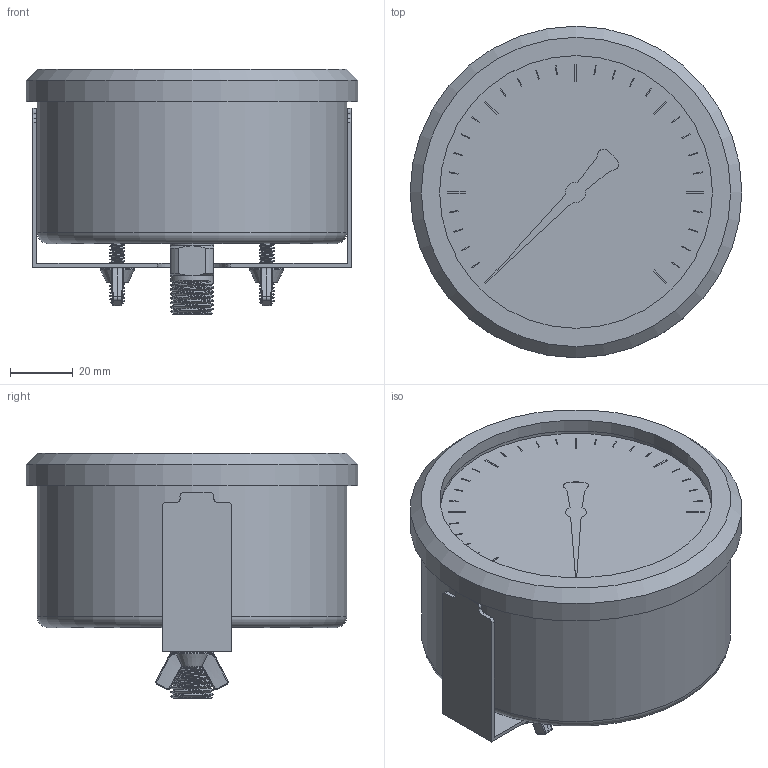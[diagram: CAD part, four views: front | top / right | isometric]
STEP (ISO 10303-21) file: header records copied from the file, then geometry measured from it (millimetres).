
FILE_DESCRIPTION(/* description */ (''),/* implementation_level */ '2;1');
FILE_NAME(/* name */ 'P:\Drawings, Sketches\Stephen Sketches\PCS Gauges\Assemblies\.stp files\40282 - PC40 U-CLAMP.stp',/* time_stamp */ '2023-08-15T15:06:26-05:00',/* author */ ('stephen'),/* organization */ (''),/* preprocessor_version */ 'ST-DEVELOPER v18.1',/* originating_system */ 'Autodesk Inventor 2022',/* authorisation */ '');
FILE_SCHEMA (('AUTOMOTIVE_DESIGN { 1 0 10303 214 3 1 1 }'));
Length unit declared in the file: inch
Products named in the file (8): 4in U Clamp; KPCh 100-3 rm G1-4B U Clamp; 4in bezel; 4in dial; .190 DIA STUD BOLT 1.5LG; .25 ftg; 4in U-Clamp; .190 10-24 Wing Nut
Assembly tree (9 placements, depth 2):
  4in U Clamp
    KPCh 100-3 rm G1-4B U Clamp
    4in bezel
    4in dial
    .190 DIA STUD BOLT 1.5LG  x2
    .25 ftg
    4in U-Clamp
    .190 10-24 Wing Nut  x2
Bounding box: 105.92 x 105.92 x 78.45 mm (x, y, z)
Volume: 413340.2 mm3; surface area: 68252.8 mm2
Topology: 9 solids, 10 shells, 500 faces, 1256 edges, 817 vertices
Faces by surface type: plane 215, cylinder 139, bspline 117, cone 20, sphere 8, torus 1
Full cylindrical faces by diameter (mm): 0.254 x5, 2.5 x2, 3.451 x36, 4.826 x38, 5.08 x2, 13.716 x6, 13.9 x1, 87.122 x3, 98.8 x1, 101.092 x1, 105.918 x1
Entity records: 24788 total; most frequent: CARTESIAN_POINT 15884, ORIENTED_EDGE 1890, DIRECTION 1544, EDGE_CURVE 945, VERTEX_POINT 618, LINE 534, VECTOR 534, AXIS2_PLACEMENT_3D 505
